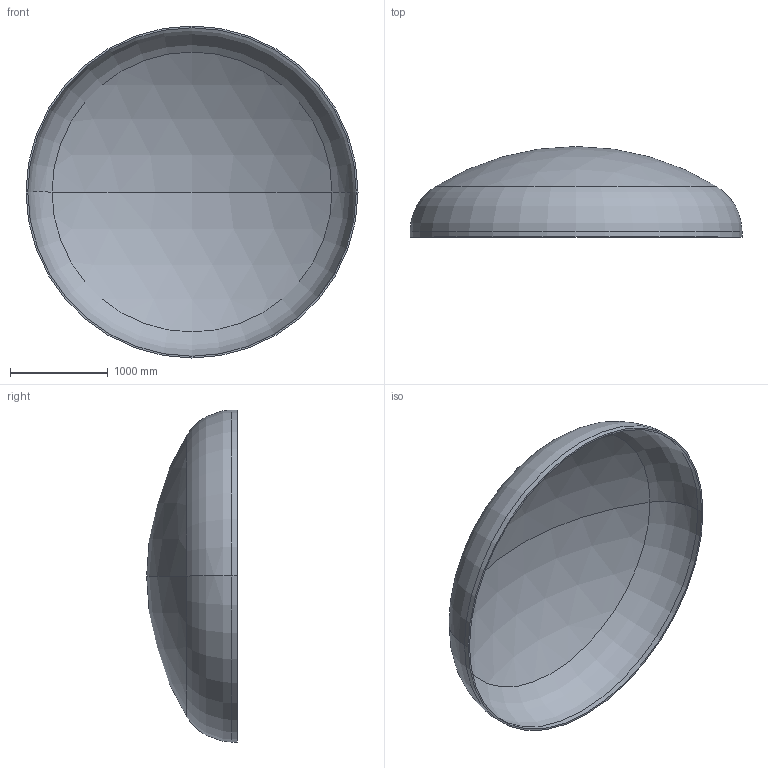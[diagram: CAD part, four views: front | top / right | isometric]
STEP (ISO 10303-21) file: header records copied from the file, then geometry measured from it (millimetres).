
FILE_DESCRIPTION (( 'STEP AP203' ), '1' );
FILE_NAME ('DIN 28013 Korbbogenform_-_Boden DIN 28013 - 3400 x 55 - I - s=18.step', '2016-07-01T19:14:56', ( '' ), ( '' ), 'SwSTEP 2.0', 'SolidWorks 2013', '' );
FILE_SCHEMA (( 'CONFIG_CONTROL_DESIGN' ));
Length unit declared in the file: millimetre
Products named in the file (1): DIN 28013 Korbbogenform_-_Boden DIN 28013 - 3400 x 55 - I - s=18
Bounding box: 3400 x 927.69 x 3400 mm (x, y, z)
Volume: 235406294 mm3; surface area: 26348170.8 mm2
Topology: 1 solids, 1 shells, 13 faces, 24 edges, 14 vertices
Faces by surface type: torus 4, cylinder 4, sphere 4, plane 1
Entity records: 407 total; most frequent: DIRECTION 72, CARTESIAN_POINT 52, ORIENTED_EDGE 48, AXIS2_PLACEMENT_3D 34, EDGE_CURVE 24, CIRCLE 20, EDGE_LOOP 14, VERTEX_POINT 14
